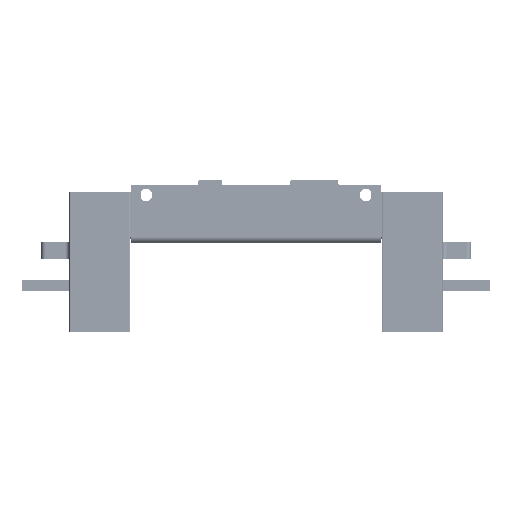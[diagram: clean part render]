
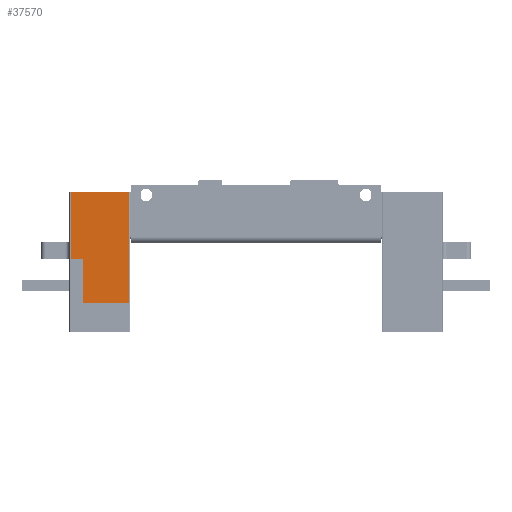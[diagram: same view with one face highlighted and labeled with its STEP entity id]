
A CAD part, left-side view. The second image highlights one B-rep face of the part: STEP entity #37570.
In plain terms, the highlighted planar face has unit normal (-1, 0, 0).
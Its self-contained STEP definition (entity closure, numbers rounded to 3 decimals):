
#2300 = LINE ( 'NONE', #65129, #89150 ) ;
#8136 = DIRECTION ( 'NONE',  ( 0., -1., 0. ) ) ;
#8144 = EDGE_CURVE ( 'NONE', #76257, #79965, #65086, .T. ) ;
#11119 = VECTOR ( 'NONE', #8136, 1000. ) ;
#11446 = VERTEX_POINT ( 'NONE', #76070 ) ;
#13655 = DIRECTION ( 'NONE',  ( 0., 1., 0. ) ) ;
#13980 = CARTESIAN_POINT ( 'NONE',  ( -45., -1.5, 81. ) ) ;
#14642 = VECTOR ( 'NONE', #65948, 1000. ) ;
#17937 = LINE ( 'NONE', #33747, #14642 ) ;
#23369 = ORIENTED_EDGE ( 'NONE', *, *, #57169, .F. ) ;
#23587 = LINE ( 'NONE', #37328, #90837 ) ;
#25081 = CARTESIAN_POINT ( 'NONE',  ( -45., -44., 0. ) ) ;
#28436 = FACE_OUTER_BOUND ( 'NONE', #103410, .T. ) ;
#28886 = VECTOR ( 'NONE', #97234, 1000. ) ;
#29029 = CARTESIAN_POINT ( 'NONE',  ( -45., -34., 80. ) ) ;
#31873 = EDGE_CURVE ( 'NONE', #79965, #94588, #73004, .T. ) ;
#32653 = CARTESIAN_POINT ( 'NONE',  ( -45., -35., 48.5 ) ) ;
#33341 = VERTEX_POINT ( 'NONE', #65811 ) ;
#33747 = CARTESIAN_POINT ( 'NONE',  ( -45., -1.5, 0. ) ) ;
#34216 = EDGE_CURVE ( 'NONE', #76257, #81980, #17937, .T. ) ;
#35226 = ORIENTED_EDGE ( 'NONE', *, *, #31873, .F. ) ;
#36887 = CARTESIAN_POINT ( 'NONE',  ( -45., 0., 102. ) ) ;
#37328 = CARTESIAN_POINT ( 'NONE',  ( -45., -35., 80. ) ) ;
#37570 = ADVANCED_FACE ( 'NONE', ( #28436 ), #60647, .F. ) ;
#39247 = CARTESIAN_POINT ( 'NONE',  ( -45., -1.5, 81. ) ) ;
#43167 = VECTOR ( 'NONE', #101015, 1000. ) ;
#46656 = ORIENTED_EDGE ( 'NONE', *, *, #34216, .T. ) ;
#47076 = EDGE_CURVE ( 'NONE', #33341, #75342, #23587, .T. ) ;
#47806 = EDGE_CURVE ( 'NONE', #33341, #94588, #72388, .T. ) ;
#49286 = DIRECTION ( 'NONE',  ( 0., -1., 0. ) ) ;
#54060 = CARTESIAN_POINT ( 'NONE',  ( -45., -44., 48.5 ) ) ;
#57169 = EDGE_CURVE ( 'NONE', #11446, #81980, #60940, .T. ) ;
#60647 = PLANE ( 'NONE',  #61999 ) ;
#60940 = LINE ( 'NONE', #54060, #43167 ) ;
#61999 = AXIS2_PLACEMENT_3D ( 'NONE', #36887, #69085, #13655 ) ;
#64628 = EDGE_CURVE ( 'NONE', #75342, #11446, #2300, .T. ) ;
#65086 = LINE ( 'NONE', #87770, #28886 ) ;
#65129 = CARTESIAN_POINT ( 'NONE',  ( -45., -35., 48.5 ) ) ;
#65618 = ORIENTED_EDGE ( 'NONE', *, *, #47076, .F. ) ;
#65811 = CARTESIAN_POINT ( 'NONE',  ( -45., -35., 80. ) ) ;
#65948 = DIRECTION ( 'NONE',  ( 0., -1., 0. ) ) ;
#68990 = AXIS2_PLACEMENT_3D ( 'NONE', #29029, #91871, #83952 ) ;
#69085 = DIRECTION ( 'NONE',  ( 1., 0., 0. ) ) ;
#72388 = CIRCLE ( 'NONE', #68990, 1. ) ;
#73004 = LINE ( 'NONE', #39247, #11119 ) ;
#75342 = VERTEX_POINT ( 'NONE', #32653 ) ;
#76070 = CARTESIAN_POINT ( 'NONE',  ( -45., -44., 48.5 ) ) ;
#76257 = VERTEX_POINT ( 'NONE', #95348 ) ;
#77497 = CARTESIAN_POINT ( 'NONE',  ( -45., -34., 81. ) ) ;
#79006 = DIRECTION ( 'NONE',  ( 0., 0., -1. ) ) ;
#79965 = VERTEX_POINT ( 'NONE', #13980 ) ;
#81980 = VERTEX_POINT ( 'NONE', #25081 ) ;
#83392 = ORIENTED_EDGE ( 'NONE', *, *, #64628, .F. ) ;
#83713 = ORIENTED_EDGE ( 'NONE', *, *, #8144, .F. ) ;
#83952 = DIRECTION ( 'NONE',  ( 0., -1., 0. ) ) ;
#87770 = CARTESIAN_POINT ( 'NONE',  ( -45., -1.5, 0. ) ) ;
#89150 = VECTOR ( 'NONE', #49286, 1000. ) ;
#90837 = VECTOR ( 'NONE', #79006, 1000. ) ;
#91871 = DIRECTION ( 'NONE',  ( -1., 0., 0. ) ) ;
#94588 = VERTEX_POINT ( 'NONE', #77497 ) ;
#95348 = CARTESIAN_POINT ( 'NONE',  ( -45., -1.5, 0. ) ) ;
#97234 = DIRECTION ( 'NONE',  ( 0., 0., 1. ) ) ;
#101015 = DIRECTION ( 'NONE',  ( 0., 0., -1. ) ) ;
#101240 = ORIENTED_EDGE ( 'NONE', *, *, #47806, .T. ) ;
#103410 = EDGE_LOOP ( 'NONE', ( #83713, #46656, #23369, #83392, #65618, #101240, #35226 ) ) ;
